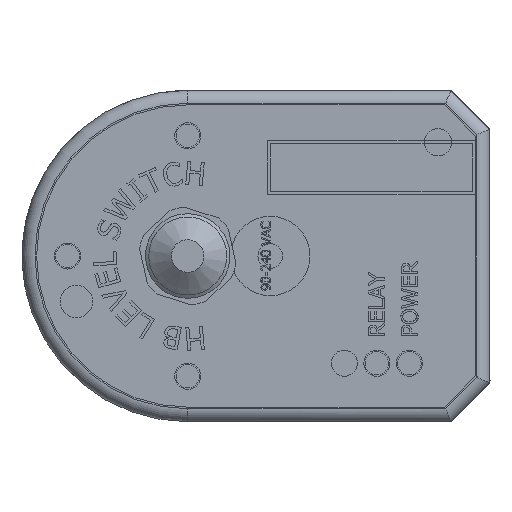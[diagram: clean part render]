
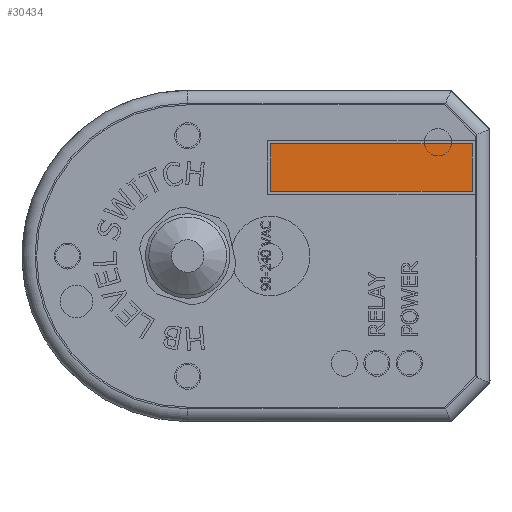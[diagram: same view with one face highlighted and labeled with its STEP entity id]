
A CAD part, front view. The second image highlights one B-rep face of the part: STEP entity #30434.
In plain terms, the highlighted planar face has unit normal (0, -1, 0).
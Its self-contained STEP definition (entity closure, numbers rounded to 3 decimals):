
#30308=CARTESIAN_POINT('',(43.891,-47.2,17.25));
#30309=VERTEX_POINT('',#30308);
#30310=CARTESIAN_POINT('',(43.891,-47.2,9.95));
#30311=VERTEX_POINT('',#30310);
#30312=CARTESIAN_POINT('',(43.891,-47.2,17.25));
#30313=DIRECTION('',(0.,0.,-1.0));
#30314=VECTOR('',#30313,7.3);
#30315=LINE('',#30312,#30314);
#30316=EDGE_CURVE('',#30309,#30311,#30315,.T.);
#30339=CARTESIAN_POINT('',(12.891,-47.2,9.95));
#30340=VERTEX_POINT('',#30339);
#30341=CARTESIAN_POINT('',(43.891,-47.2,9.95));
#30342=DIRECTION('',(-1.0,0.,0.));
#30343=VECTOR('',#30342,31.);
#30344=LINE('',#30341,#30343);
#30345=EDGE_CURVE('',#30311,#30340,#30344,.T.);
#30387=CARTESIAN_POINT('',(12.891,-47.2,17.25));
#30388=VERTEX_POINT('',#30387);
#30389=CARTESIAN_POINT('',(12.891,-47.2,17.25));
#30390=DIRECTION('',(1.0,0.,0.));
#30391=VECTOR('',#30390,31.);
#30392=LINE('',#30389,#30391);
#30393=EDGE_CURVE('',#30388,#30309,#30392,.T.);
#30411=CARTESIAN_POINT('',(12.891,-47.2,9.95));
#30412=DIRECTION('',(0.,0.,1.0));
#30413=VECTOR('',#30412,7.3);
#30414=LINE('',#30411,#30413);
#30415=EDGE_CURVE('',#30340,#30388,#30414,.T.);
#30423=CARTESIAN_POINT('',(28.391,-47.2,13.6));
#30424=DIRECTION('',(0.,-1.0,0.));
#30425=DIRECTION('',(0.,0.,1.0));
#30426=AXIS2_PLACEMENT_3D('',#30423,#30424,#30425);
#30427=PLANE('',#30426);
#30428=ORIENTED_EDGE('',*,*,#30316,.F.);
#30429=ORIENTED_EDGE('',*,*,#30393,.F.);
#30430=ORIENTED_EDGE('',*,*,#30415,.F.);
#30431=ORIENTED_EDGE('',*,*,#30345,.F.);
#30432=EDGE_LOOP('',(#30428,#30429,#30430,#30431));
#30433=FACE_OUTER_BOUND('',#30432,.T.);
#30434=ADVANCED_FACE('',(#30433),#30427,.T.);
